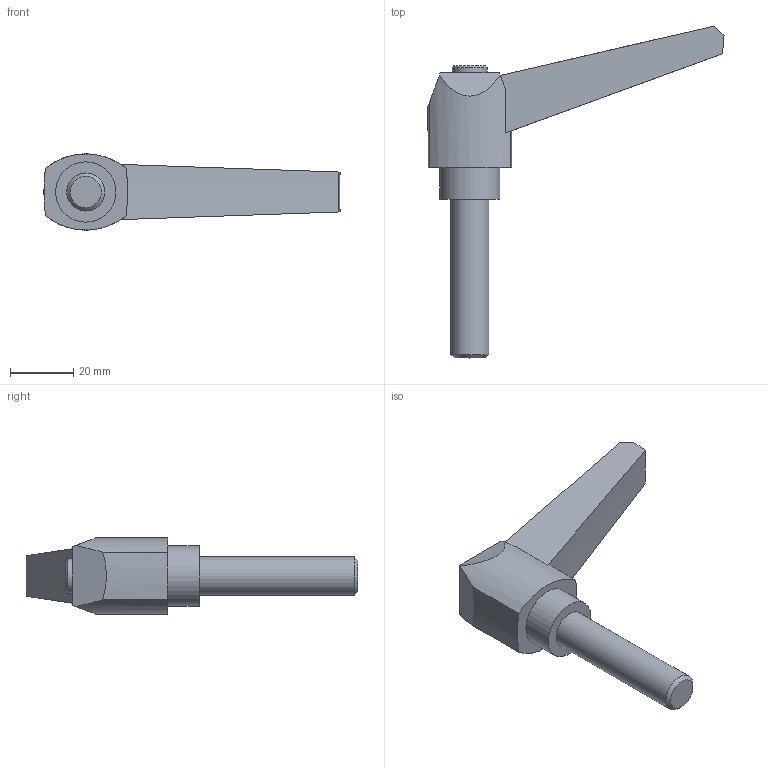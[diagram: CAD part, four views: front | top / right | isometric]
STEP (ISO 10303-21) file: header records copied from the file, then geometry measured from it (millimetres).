
FILE_DESCRIPTION( ( 'STEP AP203' ), '1' );
FILE_NAME( 'C:/Temp/Ganter_Step_05_03_2020/data/2_1/gn_500/gn_500_ms/Adjustable hand lever GN 500-80-M12-50-SW.stp', '2020-03-05T11:26:38', ( 'License CC BY-ND 4.0' ), ( 'CADENAS' ), ' ', 'PARTsolutions', ' ' );
FILE_SCHEMA( ( 'CONFIG_CONTROL_DESIGN' ) );
Length unit declared in the file: millimetre
Products named in the file (1): _Adjustable hand lever GN 500-80-M12-50-SW
Bounding box: 93.3 x 104.58 x 24 mm (x, y, z)
Volume: 38387.6 mm3; surface area: 9759.7 mm2
Topology: 1 solids, 1 shells, 24 faces, 56 edges, 37 vertices
Faces by surface type: plane 11, cylinder 7, cone 6
Full cylindrical faces by diameter (mm): 11 x1, 12 x1, 19 x1
Entity records: 709 total; most frequent: CARTESIAN_POINT 124, DIRECTION 118, ORIENTED_EDGE 100, EDGE_CURVE 50, AXIS2_PLACEMENT_3D 47, VERTEX_POINT 36, EDGE_LOOP 32, FACE_OUTER_BOUND 27
